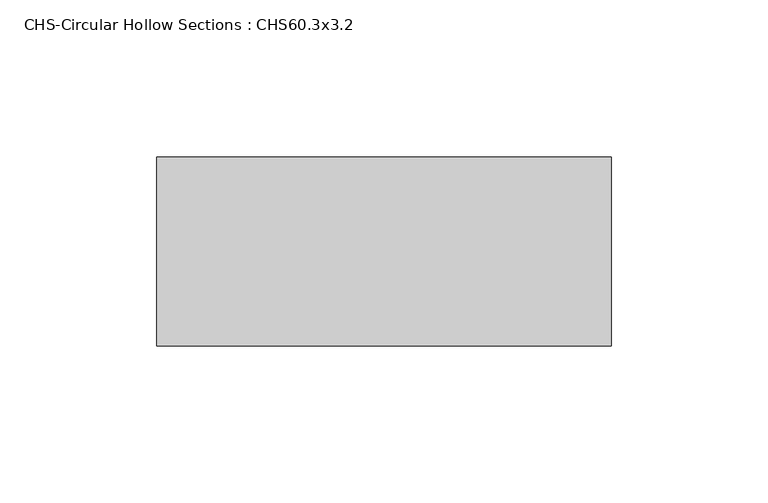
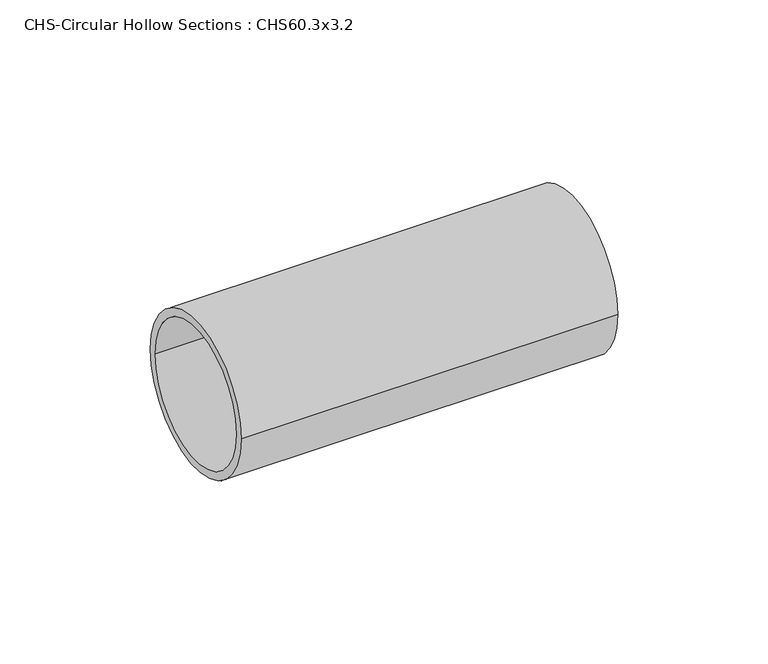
"""IFC4 building model written with IfcOpenShell, lengths in millimetres: beam geometry, CHS-Circular Hollow Sections : CHS60.3x3.2."""

from ifc_helpers import new_model, si_unit, point, frame, origin, origin_2d, place, context, project, spatial, circle_curve, trimmed, segment, composite_curve, outline, extrude, source, transform, mapped, element, save


def chs_circular_hollow_sections_chs60_3x3_2_165b7c51(model_context):
    return source(origin(), model_context, "Body", "SweptSolid", [
        extrude(outline(composite_curve([segment(trimmed(circle_curve(origin_2d(), 30.15), [point((-30.15, 0.0))], [point((30.15, 0.0))], False, "CARTESIAN"), True, "CONTINUOUS"), segment(trimmed(circle_curve(origin_2d(), 30.15), [point((30.15, 0.0))], [point((-30.15, 0.0))], False, "CARTESIAN"), True, "CONTINUOUS")], self_intersect=False), holes=[composite_curve([segment(trimmed(circle_curve(origin_2d(), 26.95), [point((26.95, 0.0))], [point((-26.95, 0.0))], True, "CARTESIAN"), True, "CONTINUOUS"), segment(trimmed(circle_curve(origin_2d(), 26.95), [point((-26.95, 0.0))], [point((26.95, 0.0))], True, "CARTESIAN"), True, "CONTINUOUS")], self_intersect=False)]), frame((-72.3, 0.0, 0.0), z_axis=(1.0, 0.0, 0.0), x_axis=(0.0, 1.0, 0.0)), (0.0, 0.0, 1.0), 144.6),
    ])


if __name__ == "__main__":
    model = new_model("IFC4")
    model_context = context("Model", 3, world=origin())
    ifc_project = project(units=[si_unit("LENGTHUNIT", "METRE", prefix="MILLI")], contexts=[model_context])
    site = spatial("IfcSite", under=ifc_project)
    building = spatial("IfcBuilding", under=site)
    placement = place(None, origin())
    chs_circular_hollow_sections_chs60_3x3_2_shape = chs_circular_hollow_sections_chs60_3x3_2_165b7c51(model_context)
    element("IfcBeam", 1, ObjectType="CHS-Circular Hollow Sections : CHS60.3x3.2", at=placement, inside=building, context=model_context, shape_type="MappedRepresentation", body=[
        mapped(chs_circular_hollow_sections_chs60_3x3_2_shape, transform((0.0, 0.0, 0.0), x_axis=(1.0, 0.0, 0.0), y_axis=(0.0, 1.0, 0.0), z_axis=(0.0, 0.0, 1.0))),
    ])
    save(model, "model.ifc")
